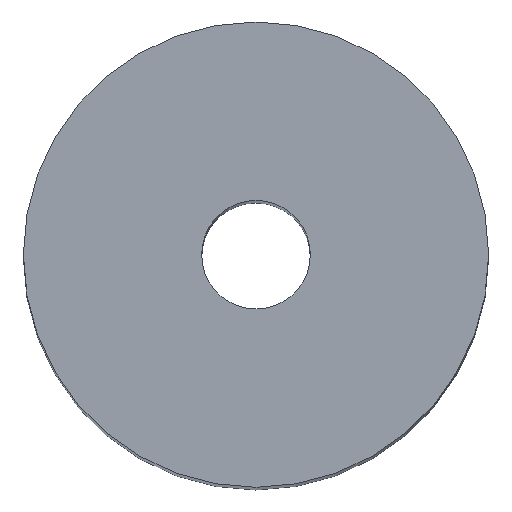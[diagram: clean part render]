
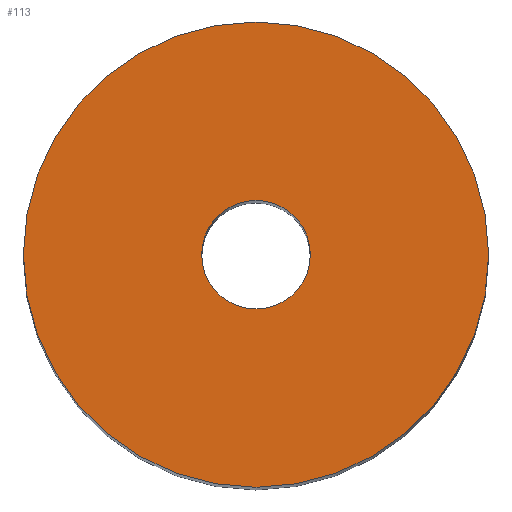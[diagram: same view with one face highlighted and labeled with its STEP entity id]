
A CAD part, top view. The second image highlights one B-rep face of the part: STEP entity #113.
In plain terms, the highlighted planar face has unit normal (0, 0, 1).
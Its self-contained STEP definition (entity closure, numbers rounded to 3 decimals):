
#113=ADVANCED_FACE('',(#121,#122),#119,.T.);
#119=PLANE('',#190);
#121=FACE_BOUND('',#125,.T.);
#122=FACE_BOUND('',#126,.T.);
#125=EDGE_LOOP('',(#133,#134));
#126=EDGE_LOOP('',(#135,#136));
#133=ORIENTED_EDGE('',*,*,#165,.T.);
#134=ORIENTED_EDGE('',*,*,#166,.T.);
#135=ORIENTED_EDGE('',*,*,#167,.F.);
#136=ORIENTED_EDGE('',*,*,#168,.F.);
#157=VERTEX_POINT('',#236);
#158=VERTEX_POINT('',#237);
#159=VERTEX_POINT('',#240);
#160=VERTEX_POINT('',#241);
#165=EDGE_CURVE('',#157,#158,#177,.T.);
#166=EDGE_CURVE('',#158,#157,#178,.T.);
#167=EDGE_CURVE('',#159,#160,#179,.T.);
#168=EDGE_CURVE('',#160,#159,#180,.T.);
#177=CIRCLE('',#186,30.);
#178=CIRCLE('',#187,30.);
#179=CIRCLE('',#188,7.);
#180=CIRCLE('',#189,7.);
#186=AXIS2_PLACEMENT_3D('',#235,#202,#203);
#187=AXIS2_PLACEMENT_3D('',#238,#204,#205);
#188=AXIS2_PLACEMENT_3D('',#239,#206,#207);
#189=AXIS2_PLACEMENT_3D('',#242,#208,#209);
#190=AXIS2_PLACEMENT_3D('',#243,#210,#211);
#202=DIRECTION('',(0.,0.,1.));
#203=DIRECTION('',(0.,1.,0.));
#204=DIRECTION('',(0.,0.,1.));
#205=DIRECTION('',(0.,-1.,0.));
#206=DIRECTION('',(0.,0.,1.));
#207=DIRECTION('',(0.,-1.,0.));
#208=DIRECTION('',(0.,0.,1.));
#209=DIRECTION('',(0.,1.,0.));
#210=DIRECTION('',(0.,0.,1.));
#211=DIRECTION('',(0.,1.,0.));
#235=CARTESIAN_POINT('',(0.,0.,200.));
#236=CARTESIAN_POINT('',(-30.,0.,200.));
#237=CARTESIAN_POINT('',(30.,0.,200.));
#238=CARTESIAN_POINT('',(0.,0.,200.));
#239=CARTESIAN_POINT('',(0.,0.,200.));
#240=CARTESIAN_POINT('',(7.,0.,200.));
#241=CARTESIAN_POINT('',(-7.,0.,200.));
#242=CARTESIAN_POINT('',(0.,0.,200.));
#243=CARTESIAN_POINT('',(0.,0.,200.));
